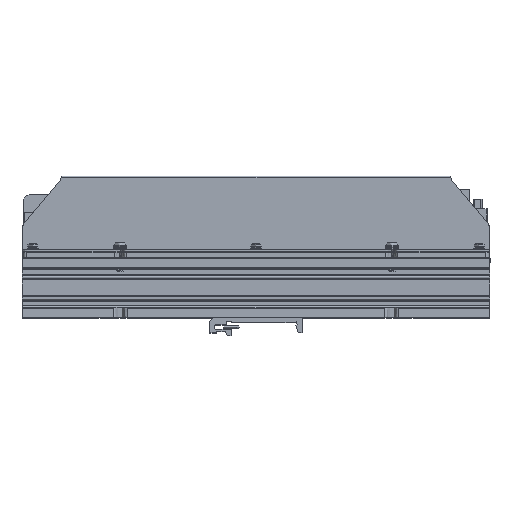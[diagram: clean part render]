
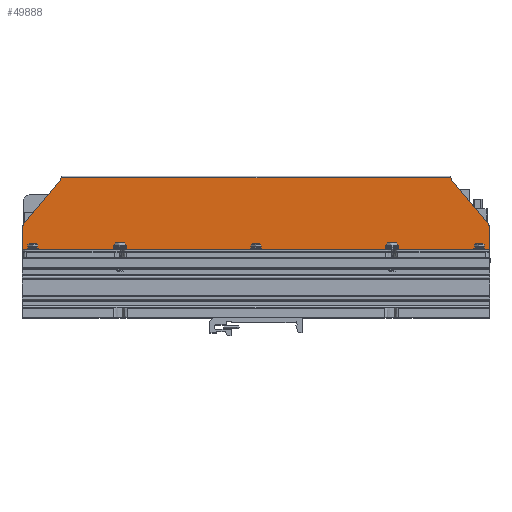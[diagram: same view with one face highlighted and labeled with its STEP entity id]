
A CAD part, top view. The second image highlights one B-rep face of the part: STEP entity #49888.
In plain terms, the highlighted planar face has unit normal (0, 0, 1).
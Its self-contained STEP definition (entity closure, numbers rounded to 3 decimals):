
#3382 = DIRECTION ( 'NONE',  ( -0.64, -0.768, 0. ) ) ;
#5174 = AXIS2_PLACEMENT_3D ( 'NONE', #133035, #20543, #89818 ) ;
#9332 = DIRECTION ( 'NONE',  ( 1., 0., 0. ) ) ;
#11899 = ORIENTED_EDGE ( 'NONE', *, *, #53992, .F. ) ;
#13898 = EDGE_CURVE ( 'NONE', #188241, #34833, #72225, .T. ) ;
#15259 = VECTOR ( 'NONE', #30545, 1000. ) ;
#20543 = DIRECTION ( 'NONE',  ( 0., 0., 1. ) ) ;
#23078 = EDGE_CURVE ( 'NONE', #95530, #66235, #234402, .T. ) ;
#24985 = PLANE ( 'NONE',  #303298 ) ;
#30545 = DIRECTION ( 'NONE',  ( 0., -1., 0. ) ) ;
#34833 = VERTEX_POINT ( 'NONE', #272419 ) ;
#34896 = EDGE_CURVE ( 'NONE', #66235, #188241, #201952, .T. ) ;
#36250 = CARTESIAN_POINT ( 'NONE',  ( -100., 71.99, 47.1 ) ) ;
#42936 = LINE ( 'NONE', #177093, #96708 ) ;
#49888 = ADVANCED_FACE ( 'NONE', ( #166693 ), #24985, .F. ) ;
#52110 = LINE ( 'NONE', #146009, #291703 ) ;
#53992 = EDGE_CURVE ( 'NONE', #180139, #157373, #273802, .T. ) ;
#60770 = VECTOR ( 'NONE', #3382, 1000. ) ;
#66235 = VERTEX_POINT ( 'NONE', #114913 ) ;
#68132 = CARTESIAN_POINT ( 'NONE',  ( -100., 71.99, 47.1 ) ) ;
#72225 = LINE ( 'NONE', #258576, #15259 ) ;
#74137 = ORIENTED_EDGE ( 'NONE', *, *, #101815, .T. ) ;
#83151 = EDGE_CURVE ( 'NONE', #95530, #180139, #149487, .T. ) ;
#89818 = DIRECTION ( 'NONE',  ( 0., -1., 0. ) ) ;
#95530 = VERTEX_POINT ( 'NONE', #36250 ) ;
#95809 = DIRECTION ( 'NONE',  ( 0., 0., -1. ) ) ;
#96708 = VECTOR ( 'NONE', #252407, 1000. ) ;
#101815 = EDGE_CURVE ( 'NONE', #34833, #222368, #42936, .T. ) ;
#103286 = CARTESIAN_POINT ( 'NONE',  ( -100., 71.99, 47.1 ) ) ;
#104856 = CARTESIAN_POINT ( 'NONE',  ( 120., 47.276, 47.1 ) ) ;
#106114 = ORIENTED_EDGE ( 'NONE', *, *, #34896, .T. ) ;
#111136 = ORIENTED_EDGE ( 'NONE', *, *, #281130, .T. ) ;
#114913 = CARTESIAN_POINT ( 'NONE',  ( -119.536, 48.556, 47.1 ) ) ;
#123491 = CARTESIAN_POINT ( 'NONE',  ( -100., 71.99, 47.1 ) ) ;
#133035 = CARTESIAN_POINT ( 'NONE',  ( -118., 47.276, 47.1 ) ) ;
#139730 = AXIS2_PLACEMENT_3D ( 'NONE', #213641, #209094, #282951 ) ;
#146009 = CARTESIAN_POINT ( 'NONE',  ( 120., 71.99, 47.1 ) ) ;
#147645 = CARTESIAN_POINT ( 'NONE',  ( 120., 35.01, 47.1 ) ) ;
#149487 = LINE ( 'NONE', #103286, #291255 ) ;
#157373 = VERTEX_POINT ( 'NONE', #292237 ) ;
#166693 = FACE_OUTER_BOUND ( 'NONE', #182929, .T. ) ;
#177093 = CARTESIAN_POINT ( 'NONE',  ( -100., 35.01, 47.1 ) ) ;
#179330 = ORIENTED_EDGE ( 'NONE', *, *, #278517, .F. ) ;
#180139 = VERTEX_POINT ( 'NONE', #196848 ) ;
#182929 = EDGE_LOOP ( 'NONE', ( #179330, #111136, #11899, #224228, #234907, #106114, #227547, #74137 ) ) ;
#188241 = VERTEX_POINT ( 'NONE', #288423 ) ;
#189793 = DIRECTION ( 'NONE',  ( 0., -1., 0. ) ) ;
#192249 = DIRECTION ( 'NONE',  ( 0., -1., 0. ) ) ;
#196848 = CARTESIAN_POINT ( 'NONE',  ( 100., 71.99, 47.1 ) ) ;
#201952 = CIRCLE ( 'NONE', #5174, 2. ) ;
#202984 = DIRECTION ( 'NONE',  ( 0.64, -0.768, 0. ) ) ;
#209094 = DIRECTION ( 'NONE',  ( 0., 0., 1. ) ) ;
#213641 = CARTESIAN_POINT ( 'NONE',  ( 118., 47.276, 47.1 ) ) ;
#222368 = VERTEX_POINT ( 'NONE', #147645 ) ;
#224228 = ORIENTED_EDGE ( 'NONE', *, *, #83151, .F. ) ;
#227547 = ORIENTED_EDGE ( 'NONE', *, *, #13898, .T. ) ;
#234402 = LINE ( 'NONE', #68132, #60770 ) ;
#234907 = ORIENTED_EDGE ( 'NONE', *, *, #23078, .T. ) ;
#243113 = CARTESIAN_POINT ( 'NONE',  ( 100., 71.99, 47.1 ) ) ;
#252407 = DIRECTION ( 'NONE',  ( 1., 0., 0. ) ) ;
#257432 = VECTOR ( 'NONE', #202984, 1000. ) ;
#258576 = CARTESIAN_POINT ( 'NONE',  ( -120., 71.99, 47.1 ) ) ;
#261165 = VERTEX_POINT ( 'NONE', #104856 ) ;
#272419 = CARTESIAN_POINT ( 'NONE',  ( -120., 35.01, 47.1 ) ) ;
#272555 = CIRCLE ( 'NONE', #139730, 2. ) ;
#273802 = LINE ( 'NONE', #243113, #257432 ) ;
#278517 = EDGE_CURVE ( 'NONE', #261165, #222368, #52110, .T. ) ;
#281130 = EDGE_CURVE ( 'NONE', #261165, #157373, #272555, .T. ) ;
#282951 = DIRECTION ( 'NONE',  ( 0., -1., 0. ) ) ;
#288423 = CARTESIAN_POINT ( 'NONE',  ( -120., 47.276, 47.1 ) ) ;
#291255 = VECTOR ( 'NONE', #9332, 1000. ) ;
#291703 = VECTOR ( 'NONE', #192249, 1000. ) ;
#292237 = CARTESIAN_POINT ( 'NONE',  ( 119.536, 48.556, 47.1 ) ) ;
#303298 = AXIS2_PLACEMENT_3D ( 'NONE', #123491, #95809, #189793 ) ;
